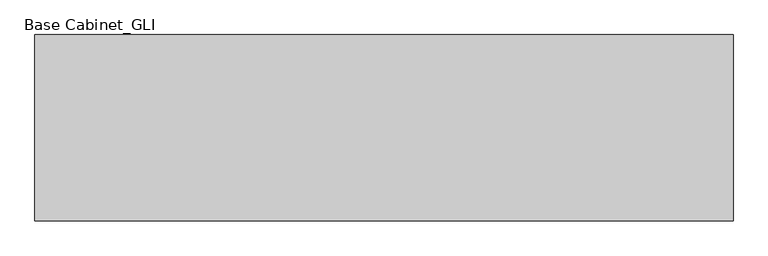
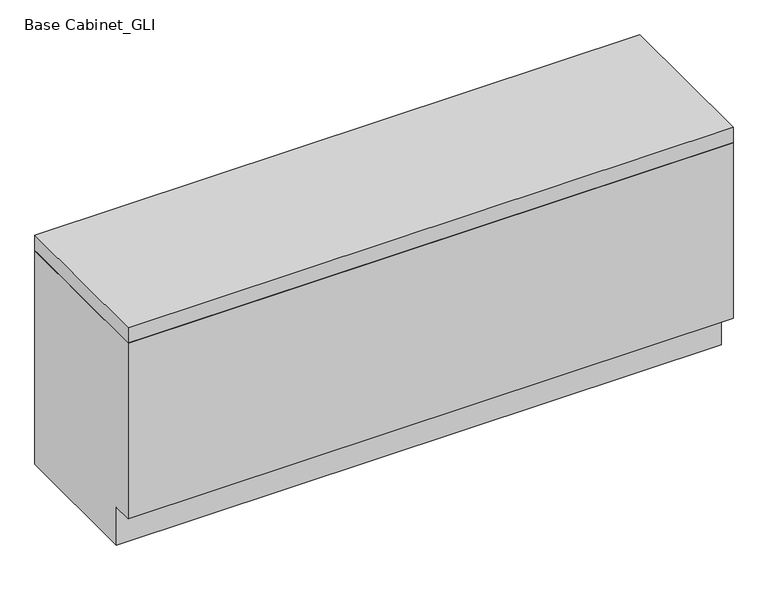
"""IFC4 building model written with IfcOpenShell, lengths in millimetres: proxy geometry, Base Cabinet_GLI : 900h x400d."""

from ifc_helpers import new_model, si_unit, frame, origin, place, context, project, spatial, polyline, outline, extrude, source, transform, mapped, element, save


def base_cabinet_gli_51fd8312(model_context):
    return source(origin(), model_context, "Body", "SweptSolid", [
        extrude(outline(polyline([(-400.0, 100.0), (-400.0, 560.0), (0.0, 560.0), (0.0, 0.0), (-350.0, 0.0), (-350.0, 100.0), (-400.0, 100.0)])), frame((0.0, 0.0, 0.0), z_axis=(1.0, 0.0, 0.0), x_axis=(0.0, 1.0, 0.0)), (0.0, 0.0, 1.0), 1500.0),
        extrude(outline(polyline([(1500.0, 0.0), (1500.0, -400.0), (0.0, -400.0), (0.0, 0.0), (1500.0, 0.0)])), frame((0.0, 0.0, 560.0), z_axis=(0.0, 0.0, 1.0), x_axis=(1.0, 0.0, 0.0)), (0.0, 0.0, 1.0), 40.0),
    ])


if __name__ == "__main__":
    model = new_model("IFC4")
    model_context = context("Model", 3, world=origin())
    ifc_project = project(units=[si_unit("LENGTHUNIT", "METRE", prefix="MILLI")], contexts=[model_context])
    site = spatial("IfcSite", under=ifc_project)
    building = spatial("IfcBuilding", under=site)
    placement = place(None, origin())
    base_cabinet_gli_shape = base_cabinet_gli_51fd8312(model_context)
    element("IfcBuildingElementProxy", 1, Name="Base Cabinet_GLI : 900h x400d", ObjectType="Base Cabinet_GLI : 900h x400d", at=placement, inside=building, context=model_context, shape_type="MappedRepresentation", body=[
        mapped(base_cabinet_gli_shape, transform((0.0, 0.0, 0.0), x_axis=(1.0, 0.0, 0.0), y_axis=(0.0, 1.0, 0.0), z_axis=(0.0, 0.0, 1.0))),
    ])
    save(model, "model.ifc")
